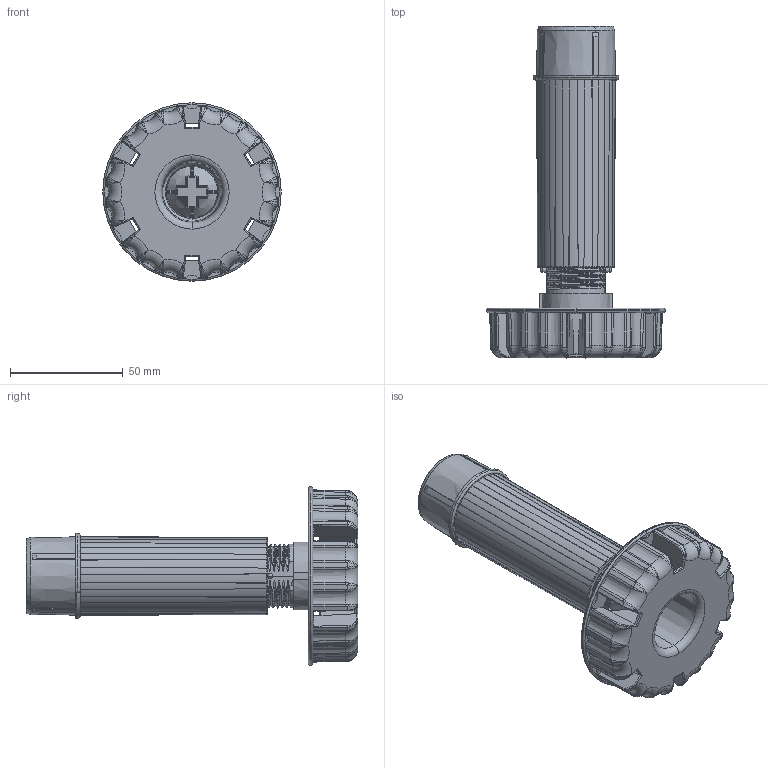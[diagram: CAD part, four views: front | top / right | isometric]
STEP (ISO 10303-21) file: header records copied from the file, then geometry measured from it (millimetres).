
FILE_DESCRIPTION((''),'2;1');
FILE_NAME('69_4152_ASM','2013-06-19T',('dsc'),(''),'PRO/ENGINEER BY PARAMETRIC TECHNOLOGY CORPORATION, 2012360','PRO/ENGINEER BY PARAMETRIC TECHNOLOGY CORPORATION, 2012360','');
FILE_SCHEMA(('CONFIG_CONTROL_DESIGN'));
Length unit declared in the file: millimetre
Products named in the file (3): 69_0015; 69_1503; 69_4152_ASM
Assembly tree (2 placements, depth 2):
  69_4152_ASM
    69_0015
    69_1503
Bounding box: 79 x 146.89 x 79 mm (x, y, z)
Volume: 56696 mm3; surface area: 64687.6 mm2
Topology: 2 solids, 2 shells, 1106 faces, 3008 edges, 1899 vertices
Faces by surface type: bspline 328, plane 210, cylinder 208, cone 167, torus 165, sphere 28
Entity records: 88434 total; most frequent: CARTESIAN_POINT 64324, ORIENTED_EDGE 6008, DIRECTION 3648, EDGE_CURVE 3004, VERTEX_POINT 1899, B_SPLINE_CURVE_WITH_KNOTS 1578, AXIS2_PLACEMENT_3D 1439, EDGE_LOOP 1117
